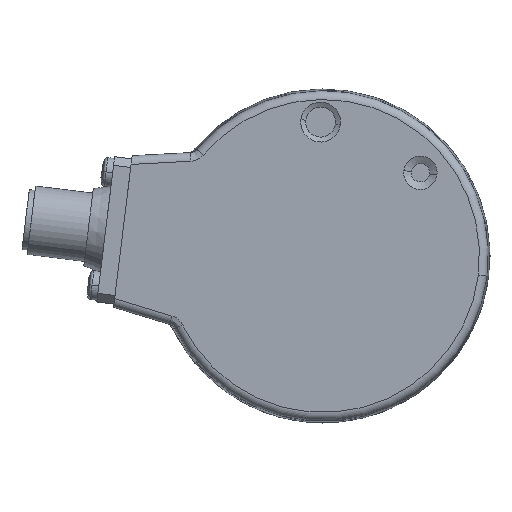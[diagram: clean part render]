
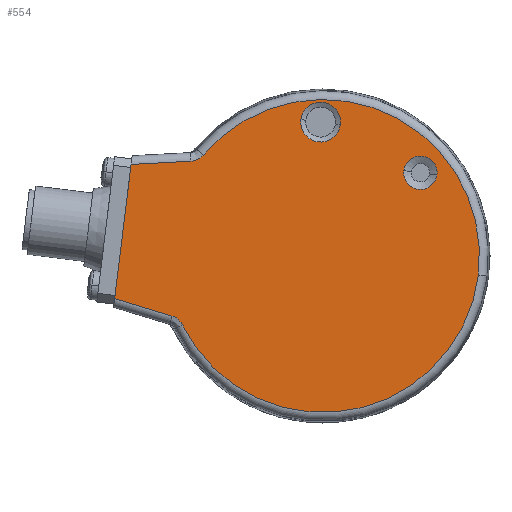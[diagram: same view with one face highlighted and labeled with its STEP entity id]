
A CAD part, left-side view. The second image highlights one B-rep face of the part: STEP entity #554.
In plain terms, the highlighted planar face has unit normal (-1, 0, 0).
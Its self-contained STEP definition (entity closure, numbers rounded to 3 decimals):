
#52 = CARTESIAN_POINT ( 'NONE',  ( -19., 24.597, -11.605 ) ) ;
#66 = EDGE_CURVE ( 'NONE', #14656, #10682, #12973, .T. ) ;
#157 = ORIENTED_EDGE ( 'NONE', *, *, #14801, .F. ) ;
#309 = CIRCLE ( 'NONE', #3932, 3.466 ) ;
#444 = CARTESIAN_POINT ( 'NONE',  ( -19., 20.777, 17.512 ) ) ;
#489 = CARTESIAN_POINT ( 'NONE',  ( -19., 20.91, 17.355 ) ) ;
#517 = CARTESIAN_POINT ( 'NONE',  ( -19., 21.056, 17.213 ) ) ;
#542 = CARTESIAN_POINT ( 'NONE',  ( -19., 21.376, 16.962 ) ) ;
#554 = ADVANCED_FACE ( 'NONE', ( #4750, #5027, #4706 ), #22527, .F. ) ;
#557 = ORIENTED_EDGE ( 'NONE', *, *, #12357, .T. ) ;
#574 = CARTESIAN_POINT ( 'NONE',  ( -19., 21.552, 16.851 ) ) ;
#595 = CARTESIAN_POINT ( 'NONE',  ( -19., 21.917, 16.669 ) ) ;
#607 = CARTESIAN_POINT ( 'NONE',  ( -19., 22.108, 16.597 ) ) ;
#624 = CARTESIAN_POINT ( 'NONE',  ( -19., 22.503, 16.493 ) ) ;
#698 = CARTESIAN_POINT ( 'NONE',  ( -19., 22.708, 16.461 ) ) ;
#718 = VECTOR ( 'NONE', #10361, 1000. ) ;
#777 = CARTESIAN_POINT ( 'NONE',  ( -19., 22.914, 16.45 ) ) ;
#1264 = CARTESIAN_POINT ( 'NONE',  ( -19., -19.796, 14.097 ) ) ;
#1300 = LINE ( 'NONE', #10309, #718 ) ;
#1372 = VECTOR ( 'NONE', #3457, 1000. ) ;
#2439 = VERTEX_POINT ( 'NONE', #18309 ) ;
#2645 = CARTESIAN_POINT ( 'NONE',  ( -19., 0., 0. ) ) ;
#2965 = AXIS2_PLACEMENT_3D ( 'NONE', #5974, #5941, #5919 ) ;
#3053 = CARTESIAN_POINT ( 'NONE',  ( -19., -3.034, 22.824 ) ) ;
#3063 = VERTEX_POINT ( 'NONE', #1264 ) ;
#3457 = DIRECTION ( 'NONE',  ( 0., -0.956, -0.292 ) ) ;
#3661 = CARTESIAN_POINT ( 'NONE',  ( -19., 25.556, -10.618 ) ) ;
#3727 = CARTESIAN_POINT ( 'NONE',  ( -19., -14.042, 14.804 ) ) ;
#3932 = AXIS2_PLACEMENT_3D ( 'NONE', #18588, #7637, #20360 ) ;
#4063 = DIRECTION ( 'NONE',  ( 1., 0., 0. ) ) ;
#4564 = CIRCLE ( 'NONE', #10581, 27.173 ) ;
#4706 = FACE_OUTER_BOUND ( 'NONE', #10292, .T. ) ;
#4750 = FACE_BOUND ( 'NONE', #4905, .T. ) ;
#4905 = EDGE_LOOP ( 'NONE', ( #16199, #10718 ) ) ;
#5027 = FACE_BOUND ( 'NONE', #11708, .T. ) ;
#5094 = VERTEX_POINT ( 'NONE', #17820 ) ;
#5137 = CARTESIAN_POINT ( 'NONE',  ( -19., 24.487, -11.781 ) ) ;
#5696 = ORIENTED_EDGE ( 'NONE', *, *, #7084, .F. ) ;
#5919 = DIRECTION ( 'NONE',  ( 0., -0.993, -0.122 ) ) ;
#5941 = DIRECTION ( 'NONE',  ( -1., 0., 0. ) ) ;
#5974 = CARTESIAN_POINT ( 'NONE',  ( -19., 0., 0. ) ) ;
#6261 = DIRECTION ( 'NONE',  ( 0., 0.999, -0.052 ) ) ;
#6296 = CARTESIAN_POINT ( 'NONE',  ( -19., 33.046, 15.919 ) ) ;
#6366 = DIRECTION ( 'NONE',  ( 0., -0.993, -0.122 ) ) ;
#6586 = ORIENTED_EDGE ( 'NONE', *, *, #6797, .T. ) ;
#6696 = CARTESIAN_POINT ( 'NONE',  ( -19., -16.919, 14.45 ) ) ;
#6797 = EDGE_CURVE ( 'NONE', #16225, #19569, #4564, .T. ) ;
#7084 = EDGE_CURVE ( 'NONE', #21879, #2439, #22529, .T. ) ;
#7395 = CARTESIAN_POINT ( 'NONE',  ( -19., 36.168, -7.374 ) ) ;
#7514 = CARTESIAN_POINT ( 'NONE',  ( -19., 0.406, 23.246 ) ) ;
#7637 = DIRECTION ( 'NONE',  ( 1., 0., 0. ) ) ;
#7901 = ORIENTED_EDGE ( 'NONE', *, *, #13988, .F. ) ;
#7943 = CIRCLE ( 'NONE', #2965, 27.173 ) ;
#8252 = CARTESIAN_POINT ( 'NONE',  ( -19., -16.919, 14.45 ) ) ;
#9351 = ORIENTED_EDGE ( 'NONE', *, *, #66, .T. ) ;
#10100 = DIRECTION ( 'NONE',  ( 0., -0.993, -0.122 ) ) ;
#10292 = EDGE_LOOP ( 'NONE', ( #157, #16833, #7901, #557, #5696, #22918, #6586 ) ) ;
#10309 = CARTESIAN_POINT ( 'NONE',  ( -19., 36.354, -8.886 ) ) ;
#10361 = DIRECTION ( 'NONE',  ( 0., -0.122, 0.993 ) ) ;
#10370 = EDGE_CURVE ( 'NONE', #10977, #5094, #22401, .T. ) ;
#10408 = EDGE_CURVE ( 'NONE', #21879, #16225, #7943, .T. ) ;
#10581 = AXIS2_PLACEMENT_3D ( 'NONE', #19441, #19175, #19040 ) ;
#10682 = VERTEX_POINT ( 'NONE', #3053 ) ;
#10718 = ORIENTED_EDGE ( 'NONE', *, *, #11172, .T. ) ;
#10747 = CARTESIAN_POINT ( 'NONE',  ( -19., 3.846, 23.669 ) ) ;
#10802 = B_SPLINE_CURVE_WITH_KNOTS ( 'NONE', 3,
 ( #777, #698, #624, #607, #595, #574, #542, #517, #489, #444 ),
 .UNSPECIFIED., .F., .F.,
 ( 4, 2, 2, 2, 4 ),
 ( 0., 0.001, 0.001, 0.002, 0.002 ),
 .UNSPECIFIED. ) ;
#10977 = VERTEX_POINT ( 'NONE', #16194 ) ;
#11172 = EDGE_CURVE ( 'NONE', #3063, #22621, #23242, .T. ) ;
#11358 = AXIS2_PLACEMENT_3D ( 'NONE', #7514, #17385, #22024 ) ;
#11675 = AXIS2_PLACEMENT_3D ( 'NONE', #2645, #13386, #17218 ) ;
#11708 = EDGE_LOOP ( 'NONE', ( #9351, #12751 ) ) ;
#12105 = CARTESIAN_POINT ( 'NONE',  ( -19., 20.777, 17.512 ) ) ;
#12357 = EDGE_CURVE ( 'NONE', #14231, #2439, #21257, .T. ) ;
#12751 = ORIENTED_EDGE ( 'NONE', *, *, #22225, .T. ) ;
#12973 = CIRCLE ( 'NONE', #11358, 3.466 ) ;
#13386 = DIRECTION ( 'NONE',  ( 1., 0., 0. ) ) ;
#13988 = EDGE_CURVE ( 'NONE', #14231, #5094, #1300, .T. ) ;
#14152 = CARTESIAN_POINT ( 'NONE',  ( -19., 24.396, -11.966 ) ) ;
#14231 = VERTEX_POINT ( 'NONE', #7395 ) ;
#14656 = VERTEX_POINT ( 'NONE', #10747 ) ;
#14801 = EDGE_CURVE ( 'NONE', #10977, #19569, #10802, .T. ) ;
#16194 = CARTESIAN_POINT ( 'NONE',  ( -19., 22.914, 16.45 ) ) ;
#16199 = ORIENTED_EDGE ( 'NONE', *, *, #17627, .T. ) ;
#16225 = VERTEX_POINT ( 'NONE', #22751 ) ;
#16833 = ORIENTED_EDGE ( 'NONE', *, *, #10370, .T. ) ;
#17218 = DIRECTION ( 'NONE',  ( 0., -0.993, -0.122 ) ) ;
#17385 = DIRECTION ( 'NONE',  ( 1., 0., 0. ) ) ;
#17627 = EDGE_CURVE ( 'NONE', #22621, #3063, #20085, .T. ) ;
#17691 = VECTOR ( 'NONE', #6261, 1000. ) ;
#17820 = CARTESIAN_POINT ( 'NONE',  ( -19., 33.31, 15.905 ) ) ;
#18209 = AXIS2_PLACEMENT_3D ( 'NONE', #8252, #20946, #10100 ) ;
#18309 = CARTESIAN_POINT ( 'NONE',  ( -19., 26.213, -10.418 ) ) ;
#18588 = CARTESIAN_POINT ( 'NONE',  ( -19., 0.406, 23.246 ) ) ;
#19040 = DIRECTION ( 'NONE',  ( 0., -0.993, -0.122 ) ) ;
#19175 = DIRECTION ( 'NONE',  ( -1., 0., 0. ) ) ;
#19441 = CARTESIAN_POINT ( 'NONE',  ( -19., 0., 0. ) ) ;
#19569 = VERTEX_POINT ( 'NONE', #12105 ) ;
#19980 = CARTESIAN_POINT ( 'NONE',  ( -19., 24.396, -11.966 ) ) ;
#20085 = CIRCLE ( 'NONE', #18209, 2.899 ) ;
#20360 = DIRECTION ( 'NONE',  ( 0., -0.993, -0.122 ) ) ;
#20946 = DIRECTION ( 'NONE',  ( 1., 0., 0. ) ) ;
#21257 = LINE ( 'NONE', #3661, #1372 ) ;
#21875 = CARTESIAN_POINT ( 'NONE',  ( -19., 26.213, -10.418 ) ) ;
#21879 = VERTEX_POINT ( 'NONE', #19980 ) ;
#22024 = DIRECTION ( 'NONE',  ( 0., -0.993, -0.122 ) ) ;
#22225 = EDGE_CURVE ( 'NONE', #10682, #14656, #309, .T. ) ;
#22401 = LINE ( 'NONE', #6296, #17691 ) ;
#22527 = PLANE ( 'NONE',  #11675 ) ;
#22529 = B_SPLINE_CURVE_WITH_KNOTS ( 'NONE', 3,
 ( #14152, #5137, #52, #23528, #23453, #23226, #22992, #22902, #22745, #21875 ),
 .UNSPECIFIED., .F., .F.,
 ( 4, 2, 2, 2, 4 ),
 ( 0., 0.001, 0.001, 0.002, 0.002 ),
 .UNSPECIFIED. ) ;
#22621 = VERTEX_POINT ( 'NONE', #3727 ) ;
#22718 = AXIS2_PLACEMENT_3D ( 'NONE', #6696, #4063, #6366 ) ;
#22745 = CARTESIAN_POINT ( 'NONE',  ( -19., 26.016, -10.478 ) ) ;
#22751 = CARTESIAN_POINT ( 'NONE',  ( -19., -26.97, -3.312 ) ) ;
#22902 = CARTESIAN_POINT ( 'NONE',  ( -19., 25.828, -10.557 ) ) ;
#22918 = ORIENTED_EDGE ( 'NONE', *, *, #10408, .T. ) ;
#22992 = CARTESIAN_POINT ( 'NONE',  ( -19., 25.471, -10.753 ) ) ;
#23226 = CARTESIAN_POINT ( 'NONE',  ( -19., 25.3, -10.87 ) ) ;
#23242 = CIRCLE ( 'NONE', #22718, 2.899 ) ;
#23453 = CARTESIAN_POINT ( 'NONE',  ( -19., 24.989, -11.135 ) ) ;
#23528 = CARTESIAN_POINT ( 'NONE',  ( -19., 24.848, -11.282 ) ) ;
